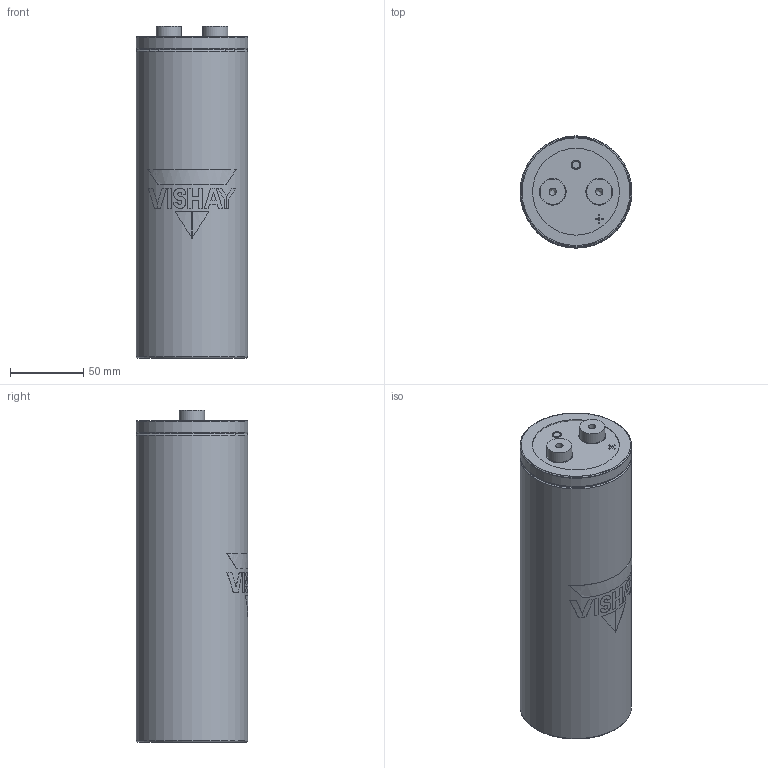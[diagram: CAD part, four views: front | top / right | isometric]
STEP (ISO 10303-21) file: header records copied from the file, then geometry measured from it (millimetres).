
FILE_DESCRIPTION(('FreeCAD Model'),'2;1');
FILE_NAME('C:/Users/tvandesteeg/Documents/Documents/FreeCAD/Stepfiles/ST capacitors/ST_HP_18mm_M6_76x220.step','2020-12-14T17:14:12',('Author'),( ''),'Open CASCADE STEP processor 7.3','FreeCAD','Unknown');
FILE_SCHEMA(('AUTOMOTIVE_DESIGN { 1 0 10303 214 1 1 1 1 }'));
Length unit declared in the file: millimetre
Products named in the file (8): VentBody; BottomBody; TerminalBody_(Mirror_#2); TerminalBody; Disc; LogoPrint; CanBody; TerminalHole
Bounding box: 76.4 x 76.5 x 227 mm (x, y, z)
Volume: 1011721.8 mm3; surface area: 90682.8 mm2
Topology: 18 solids, 18 shells, 152 faces, 316 edges, 208 vertices
Faces by surface type: plane 95, cylinder 49, torus 5, cone 3
Full cylindrical faces by diameter (mm): 5 x4, 17.3 x2, 17.8 x7, 18.3 x2, 59.422 x3, 73.6 x2, 75 x1, 76.4 x2
Entity records: 10765 total; most frequent: CARTESIAN_POINT 3371, DIRECTION 1221, ORIENTED_EDGE 628, PCURVE 628, DEFINITIONAL_REPRESENTATION 628, LINE 537, VECTOR 537, EDGE_CURVE 314
